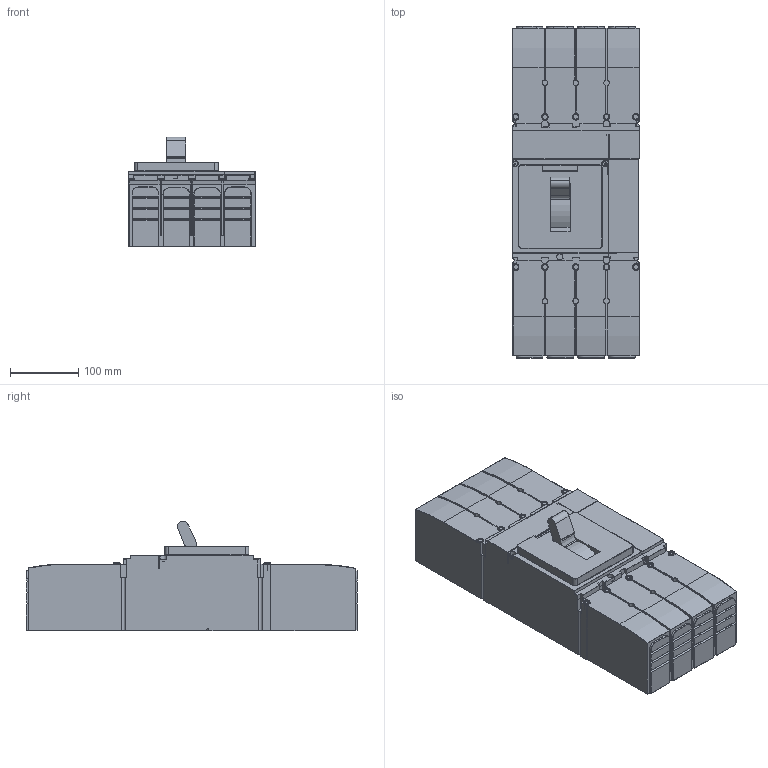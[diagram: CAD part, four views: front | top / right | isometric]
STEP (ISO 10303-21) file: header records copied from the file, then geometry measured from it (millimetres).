
FILE_DESCRIPTION((''),'2;1');
FILE_NAME('C1BN2TM12HD_3D-SIMPLIFIED_ASM','2020-12-21T16:24:41',('user.1'),('Schneider-Electric'),'CREO PARAMETRIC BY PTC INC, 2018300','CREO PARAMETRIC BY PTC INC, 2018300','');
FILE_SCHEMA(('CONFIG_CONTROL_DESIGN'));
Length unit declared in the file: millimetre
Products named in the file (2): C1BN2TM12HD_3D-SIMPLIFIED; C1BN2TM12HD_3D-SIMPLIFIED_ASM
Assembly tree (1 placements, depth 2):
  C1BN2TM12HD_3D-SIMPLIFIED_ASM
    C1BN2TM12HD_3D-SIMPLIFIED
Bounding box: 185.46 x 484.8 x 160.02 mm (x, y, z)
Volume: 9118269 mm3; surface area: 478973.9 mm2
Topology: 1 solids, 1 shells, 811 faces, 2140 edges, 1357 vertices
Faces by surface type: plane 426, cylinder 260, torus 52, bspline 40, sphere 22, extrusion 11
Entity records: 27869 total; most frequent: CARTESIAN_POINT 7851, ORIENTED_EDGE 4280, DIRECTION 4035, EDGE_CURVE 2140, VECTOR 1437, LINE 1426, VERTEX_POINT 1357, AXIS2_PLACEMENT_3D 1299
